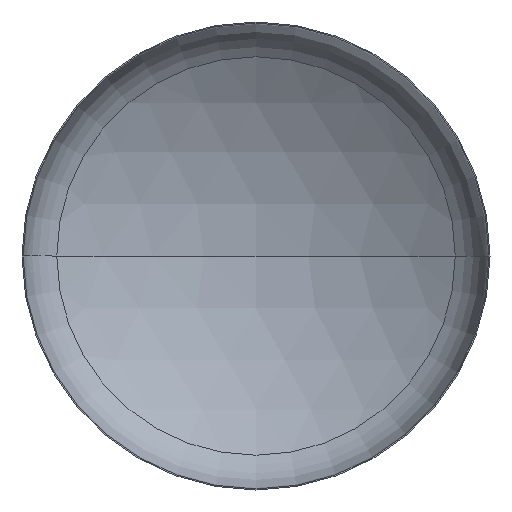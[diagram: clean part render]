
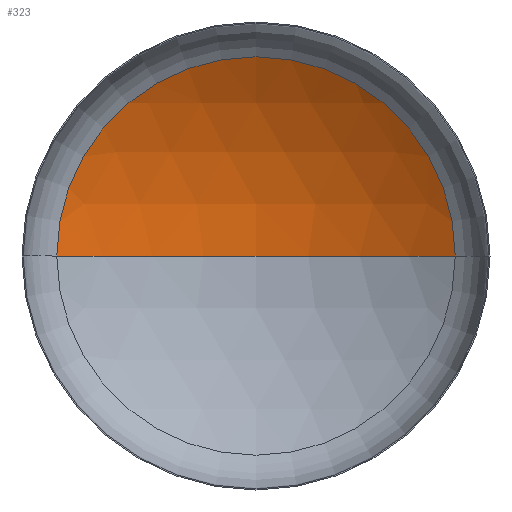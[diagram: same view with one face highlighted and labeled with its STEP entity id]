
A CAD part, front view. The second image highlights one B-rep face of the part: STEP entity #323.
In plain terms, the highlighted spherical face has radius 6400 mm.
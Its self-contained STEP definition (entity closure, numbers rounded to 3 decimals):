
#16 = AXIS2_PLACEMENT_3D ( 'NONE', #273, #298, #211 ) ;
#18 = VERTEX_POINT ( 'NONE', #97 ) ;
#31 = VERTEX_POINT ( 'NONE', #206 ) ;
#33 = ORIENTED_EDGE ( 'NONE', *, *, #151, .T. ) ;
#42 = ORIENTED_EDGE ( 'NONE', *, *, #152, .T. ) ;
#49 = VERTEX_POINT ( 'NONE', #184 ) ;
#62 = DIRECTION ( 'NONE',  ( 0., -1., 0. ) ) ;
#66 = CARTESIAN_POINT ( 'NONE',  ( 0., 1101.412, 0. ) ) ;
#81 = EDGE_LOOP ( 'NONE', ( #90, #42, #33 ) ) ;
#90 = ORIENTED_EDGE ( 'NONE', *, *, #156, .F. ) ;
#97 = CARTESIAN_POINT ( 'NONE',  ( 0., 2082.684, 0. ) ) ;
#106 = AXIS2_PLACEMENT_3D ( 'NONE', #110, #355, #376 ) ;
#108 = AXIS2_PLACEMENT_3D ( 'NONE', #175, #180, #178 ) ;
#110 = CARTESIAN_POINT ( 'NONE',  ( 0., -4317.316, 0. ) ) ;
#117 = AXIS2_PLACEMENT_3D ( 'NONE', #66, #62, #179 ) ;
#151 = EDGE_CURVE ( 'NONE', #31, #49, #398, .T. ) ;
#152 = EDGE_CURVE ( 'NONE', #18, #31, #344, .T. ) ;
#156 = EDGE_CURVE ( 'NONE', #18, #49, #287, .T. ) ;
#175 = CARTESIAN_POINT ( 'NONE',  ( 0., -4317.316, 0. ) ) ;
#178 = DIRECTION ( 'NONE',  ( -1., 0., 0. ) ) ;
#179 = DIRECTION ( 'NONE',  ( 1., 0., 0. ) ) ;
#180 = DIRECTION ( 'NONE',  ( 0., 0., -1. ) ) ;
#184 = CARTESIAN_POINT ( 'NONE',  ( -3405.493, 1101.412, 0. ) ) ;
#206 = CARTESIAN_POINT ( 'NONE',  ( 3405.493, 1101.412, 0. ) ) ;
#211 = DIRECTION ( 'NONE',  ( -1., 0., 0. ) ) ;
#273 = CARTESIAN_POINT ( 'NONE',  ( 0., -4317.316, 0. ) ) ;
#287 = CIRCLE ( 'NONE', #106, 6400. ) ;
#298 = DIRECTION ( 'NONE',  ( 0., 0., -1. ) ) ;
#316 = FACE_OUTER_BOUND ( 'NONE', #81, .T. ) ;
#318 = SPHERICAL_SURFACE ( 'NONE', #16, 6400. ) ;
#323 = ADVANCED_FACE ( 'NONE', ( #316 ), #318, .F. ) ;
#344 = CIRCLE ( 'NONE', #108, 6400. ) ;
#355 = DIRECTION ( 'NONE',  ( 0., 0., 1. ) ) ;
#376 = DIRECTION ( 'NONE',  ( 1., 0., 0. ) ) ;
#398 = CIRCLE ( 'NONE', #117, 3405.493 ) ;
